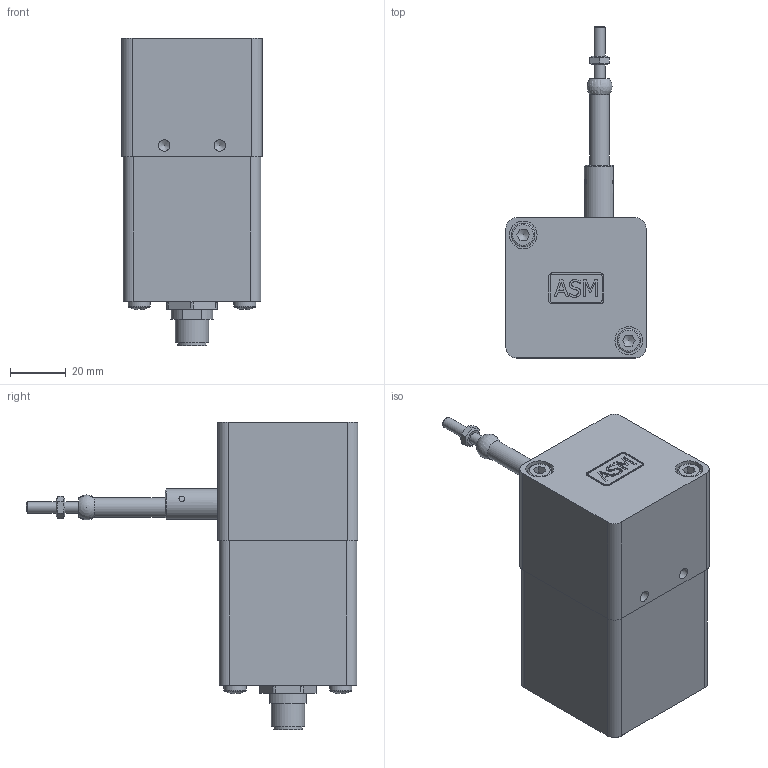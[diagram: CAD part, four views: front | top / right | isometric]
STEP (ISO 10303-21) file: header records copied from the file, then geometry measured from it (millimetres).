
FILE_DESCRIPTION(/* description */ (''),/* implementation_level */ '2;1');
FILE_NAME(/* name */ 'C:\Users\Kamp\Desktop\WS10ZG 250 M4.stp',/* time_stamp */ '2021-06-08T16:40:26+02:00',/* author */ ('kamp'),/* organization */ (''),/* preprocessor_version */ 'ST-DEVELOPER v15.6',/* originating_system */ 'Autodesk Inventor 2015',/* authorisation */ '');
FILE_SCHEMA (('CONFIG_CONTROL_DESIGN'));
Length unit declared in the file: centimetre
Products named in the file (1): WS10ZG 250 M4
Bounding box: 50.35 x 119.35 x 110.4 mm (x, y, z)
Volume: 238729.9 mm3; surface area: 27436.4 mm2
Topology: 1 solids, 1 shells, 250 faces, 662 edges, 438 vertices
Faces by surface type: plane 145, cylinder 55, bspline 28, cone 12, sphere 6, torus 4
Full cylindrical faces by diameter (mm): 1 x5, 2 x2, 4 x2, 4.134 x4, 7 x1, 8 x2, 8.3 x1, 8.5 x2, 10 x2, 10.4 x1, 12 x1
Entity records: 7894 total; most frequent: CARTESIAN_POINT 1992, ORIENTED_EDGE 1174, DIRECTION 1055, EDGE_CURVE 587, VERTEX_POINT 407, AXIS2_PLACEMENT_3D 359, LINE 337, VECTOR 337
